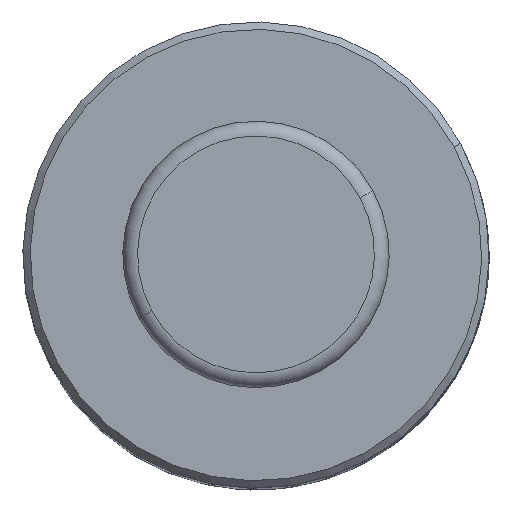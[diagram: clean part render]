
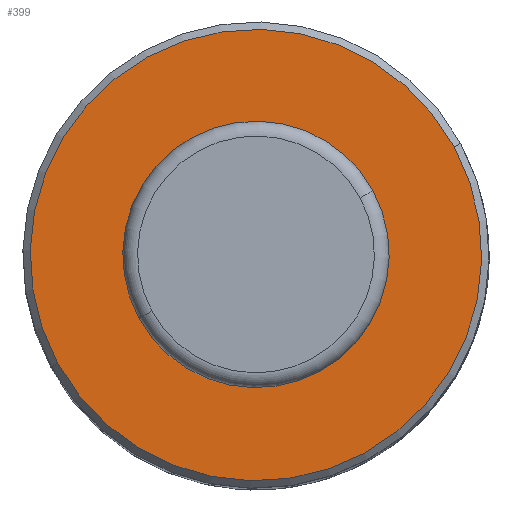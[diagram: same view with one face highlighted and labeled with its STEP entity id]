
A CAD part, top view. The second image highlights one B-rep face of the part: STEP entity #399.
In plain terms, the highlighted planar face has unit normal (0, 0, 1).
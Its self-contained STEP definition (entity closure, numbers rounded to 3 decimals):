
#376=CARTESIAN_POINT('Axis2P3D Location',(0.,0.,144.)) ;
#381=CARTESIAN_POINT('Axis2P3D Location',(0.,0.,144.)) ;
#385=CARTESIAN_POINT('Vertex',(26.766,14.622,144.)) ;
#387=CARTESIAN_POINT('Vertex',(-26.766,-14.622,144.)) ;
#390=CARTESIAN_POINT('Axis2P3D Location',(0.,0.,144.)) ;
#377=DIRECTION('Axis2P3D Direction',(0.,0.,1.)) ;
#378=DIRECTION('Axis2P3D XDirection',(1.,0.,0.)) ;
#382=DIRECTION('Axis2P3D Direction',(0.,0.,1.)) ;
#391=DIRECTION('Axis2P3D Direction',(0.,0.,1.)) ;
#379=AXIS2_PLACEMENT_3D('Plane Axis2P3D',#376,#377,#378) ;
#383=AXIS2_PLACEMENT_3D('Circle Axis2P3D',#381,#382,$) ;
#392=AXIS2_PLACEMENT_3D('Circle Axis2P3D',#390,#391,$) ;
#396=ORIENTED_EDGE('',*,*,#389,.T.) ;
#397=ORIENTED_EDGE('',*,*,#394,.T.) ;
#399=ADVANCED_FACE('',(#398),#380,.T.) ;
#384=CIRCLE('generated circle',#383,30.5) ;
#393=CIRCLE('generated circle',#392,30.5) ;
#389=EDGE_CURVE('',#386,#388,#384,.T.) ;
#394=EDGE_CURVE('',#388,#386,#393,.T.) ;
#395=EDGE_LOOP('',(#396,#397)) ;
#398=FACE_OUTER_BOUND('',#395,.T.) ;
#380=PLANE('Plane',#379) ;
#386=VERTEX_POINT('',#385) ;
#388=VERTEX_POINT('',#387) ;
